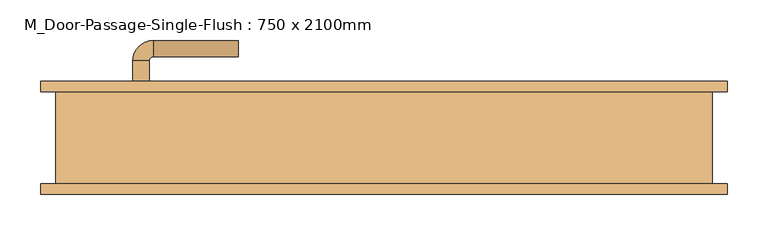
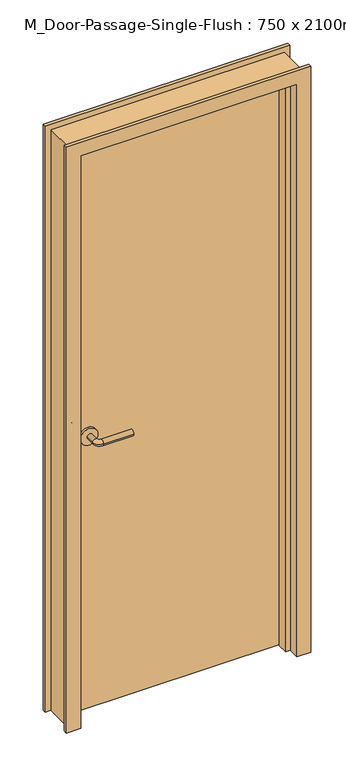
"""IFC4 building model written with IfcOpenShell, lengths in millimetres: door geometry, M_Door-Passage-Single-Flush : 750 x 2100mm."""

from ifc_helpers import new_model, si_unit, point, frame, frame_2d, origin, origin_with_axes, place, context, project, spatial, polyline, circle_curve, ellipse_curve, trimmed, segment, composite_curve, outline, extrude, faceted_brep, source, transform, mapped, element, save
from ifc_brep_helpers import plane_surface, cylinder_surface, revolved_surface, advanced_brep


def m_door_passage_single_flush_750_x_2100mm_117db9f4(model_context):
    return source(origin(), model_context, "Body", "SolidModel", [
        advanced_brep(
        [(-309.990625, 10.35, 1000.0), (-289.990625, 10.35, 1000.0), (-289.990625, -19.65, 1000.0), (-309.990625, -19.65, 1000.0), (-284.990625, -24.65, 1000.0), (-284.990625, -44.65, 1000.0), (-179.990625, -44.65, 1000.0), (-179.990625, -24.65, 1000.0)],
        [
            (0, 1, circle_curve(frame((-299.990625, 10.35, 1000.0), z_axis=(0.0, 1.0, 0.0), x_axis=(1.0, 0.0, 0.0)), 10.0)),
            (1, 0, circle_curve(frame((-299.990625, 10.35, 1000.0), z_axis=(0.0, 1.0, 0.0), x_axis=(1.0, 0.0, 0.0)), 10.0)),
            (1, 2),
            (2, 3, circle_curve(frame((-299.990625, -19.65, 1000.0), z_axis=(0.0, 1.0, 0.0), x_axis=(1.0, 0.0, 0.0)), 10.0)),
            (3, 0),
            (3, 2, circle_curve(frame((-299.990625, -19.65, 1000.0), z_axis=(0.0, 1.0, 0.0), x_axis=(1.0, 0.0, 0.0)), 10.0)),
            (4, 5, circle_curve(frame((-284.990625, -34.65, 1000.0), z_axis=(-1.0, 0.0, 0.0), x_axis=(0.0, 1.0, 0.0)), 10.0)),
            (5, 3, circle_curve(frame((-284.990625, -19.65, 1000.0), z_axis=(0.0, 0.0, -1.0), x_axis=(-1.0, 0.0, 0.0)), 25.0)),
            (2, 4, circle_curve(frame((-284.990625, -19.65, 1000.0), z_axis=(0.0, 0.0, 1.0), x_axis=(-1.0, 0.0, 0.0)), 5.0)),
            (5, 4, circle_curve(frame((-284.990625, -34.65, 1000.0), z_axis=(-1.0, 0.0, 0.0), x_axis=(0.0, 1.0, 0.0)), 10.0)),
            (6, 7, circle_curve(frame((-179.990625, -34.65, 1000.0), z_axis=(1.0, 0.0, 0.0), x_axis=(0.0, 1.0, 0.0)), 10.0)),
            (7, 6, circle_curve(frame((-179.990625, -34.65, 1000.0), z_axis=(1.0, 0.0, 0.0), x_axis=(0.0, 1.0, 0.0)), 10.0)),
            (4, 7),
            (6, 5),
        ],
        [
            plane_surface(frame((-299.990625, 10.35, 1000.0), z_axis=(0.0, 1.0, 0.0), x_axis=(0.0, 0.0, 1.0))),
            cylinder_surface(frame((-299.990625, 10.35, 1000.0), z_axis=(0.0, 1.0, 0.0), x_axis=(1.0, 0.0, 0.0)), 10.0),
            revolved_surface(trimmed(ellipse_curve(frame((-299.990625, -19.65, 1000.0), z_axis=(0.0, -1.0, 0.0), x_axis=(1.0, 0.0, 0.0)), 10.0, 10.0), [point((-309.990625, -19.65, 1000.0))], [point((-289.990625, -19.65, 1000.0))], True, "CARTESIAN"), (-284.990625, -19.65, 1000.0), (0.0, 0.0, -1.0)),
            revolved_surface(trimmed(ellipse_curve(frame((-299.990625, -19.65, 1000.0), z_axis=(0.0, -1.0, 0.0), x_axis=(1.0, 0.0, 0.0)), 10.0, 10.0), [point((-289.990625, -19.65, 1000.0))], [point((-309.990625, -19.65, 1000.0))], True, "CARTESIAN"), (-284.990625, -19.65, 1000.0), (0.0, 0.0, -1.0)),
            plane_surface(frame((-179.990625, -34.65, 1000.0), z_axis=(1.0, 0.0, 0.0), x_axis=(0.0, 0.0, 1.0))),
            cylinder_surface(frame((-284.990625, -34.65, 1000.0), z_axis=(-1.0, 0.0, 0.0), x_axis=(0.0, 1.0, 0.0)), 10.0),
        ],
        [
            (0, [[1, 2]]),
            (1, [[3, 4, 5, -2]]),
            (1, [[-5, 6, -3, -1]]),
            (2, [[7, 8, -4, 9]]),
            (3, [[10, -9, -6, -8]]),
            (4, [[11, 12]]),
            (5, [[13, -11, 14, -7]]),
            (5, [[-14, -12, -13, -10]]),
        ],
    ),
        extrude(outline(composite_curve([segment(trimmed(circle_curve(frame_2d((1000.0, -302.490625)), 30.0), [point((1000.0, -332.490625))], [point((1000.0, -272.490625))], False, "CARTESIAN"), True, "CONTINUOUS"), segment(trimmed(circle_curve(frame_2d((1000.0, -302.490625)), 30.0), [point((1000.0, -272.490625))], [point((1000.0, -332.490625))], False, "CARTESIAN"), True, "CONTINUOUS")], self_intersect=False)), frame((0.0, 10.35, 0.0), z_axis=(0.0, 1.0, 0.0), x_axis=(0.0, 0.0, 1.0)), (0.0, 0.0, 1.0), 8.0),
        advanced_brep(
        [(-309.990625, 71.35, 1000.0), (-289.990625, 71.35, 1000.0), (-309.990625, 101.35, 1000.0), (-289.990625, 101.35, 1000.0), (-284.990625, 106.35, 1000.0), (-284.990625, 126.35, 1000.0), (-179.990625, 126.35, 1000.0), (-179.990625, 106.35, 1000.0)],
        [
            (0, 1, circle_curve(frame((-299.990625, 71.35, 1000.0), z_axis=(0.0, -1.0, 0.0), x_axis=(1.0, 0.0, 0.0)), 10.0)),
            (1, 0, circle_curve(frame((-299.990625, 71.35, 1000.0), z_axis=(0.0, -1.0, 0.0), x_axis=(1.0, 0.0, 0.0)), 10.0)),
            (0, 2),
            (2, 3, circle_curve(frame((-299.990625, 101.35, 1000.0), z_axis=(0.0, -1.0, 0.0), x_axis=(1.0, 0.0, 0.0)), 10.0)),
            (3, 1),
            (3, 2, circle_curve(frame((-299.990625, 101.35, 1000.0), z_axis=(0.0, -1.0, 0.0), x_axis=(1.0, 0.0, 0.0)), 10.0)),
            (4, 3, circle_curve(frame((-284.990625, 101.35, 1000.0), z_axis=(0.0, 0.0, 1.0), x_axis=(-1.0, 0.0, 0.0)), 5.0)),
            (2, 5, circle_curve(frame((-284.990625, 101.35, 1000.0), z_axis=(0.0, 0.0, -1.0), x_axis=(-1.0, 0.0, 0.0)), 25.0)),
            (5, 4, circle_curve(frame((-284.990625, 116.35, 1000.0), z_axis=(-1.0, 0.0, 0.0), x_axis=(0.0, -1.0, 0.0)), 10.0)),
            (4, 5, circle_curve(frame((-284.990625, 116.35, 1000.0), z_axis=(-1.0, 0.0, 0.0), x_axis=(0.0, -1.0, 0.0)), 10.0)),
            (6, 7, circle_curve(frame((-179.990625, 116.35, 1000.0), z_axis=(1.0, 0.0, 0.0), x_axis=(0.0, -1.0, 0.0)), 10.0)),
            (7, 6, circle_curve(frame((-179.990625, 116.35, 1000.0), z_axis=(1.0, 0.0, 0.0), x_axis=(0.0, -1.0, 0.0)), 10.0)),
            (5, 6),
            (7, 4),
        ],
        [
            plane_surface(frame((-299.990625, 71.35, 1000.0), z_axis=(0.0, -1.0, 0.0), x_axis=(0.0, 0.0, 1.0))),
            cylinder_surface(frame((-299.990625, 71.35, 1000.0), z_axis=(0.0, -1.0, 0.0), x_axis=(1.0, 0.0, 0.0)), 10.0),
            revolved_surface(trimmed(ellipse_curve(frame((-299.990625, 101.35, 1000.0), z_axis=(0.0, -1.0, 0.0), x_axis=(1.0, 0.0, 0.0)), 10.0, 10.0), [point((-309.990625, 101.35, 1000.0))], [point((-289.990625, 101.35, 1000.0))], True, "CARTESIAN"), (-284.990625, 101.35, 1000.0), (0.0, 0.0, -1.0)),
            revolved_surface(trimmed(ellipse_curve(frame((-299.990625, 101.35, 1000.0), z_axis=(0.0, -1.0, 0.0), x_axis=(1.0, 0.0, 0.0)), 10.0, 10.0), [point((-289.990625, 101.35, 1000.0))], [point((-309.990625, 101.35, 1000.0))], True, "CARTESIAN"), (-284.990625, 101.35, 1000.0), (0.0, 0.0, -1.0)),
            plane_surface(frame((-179.990625, 116.35, 1000.0), z_axis=(1.0, 0.0, 0.0), x_axis=(0.0, 0.0, 1.0))),
            cylinder_surface(frame((-284.990625, 116.35, 1000.0), z_axis=(-1.0, 0.0, 0.0), x_axis=(0.0, -1.0, 0.0)), 10.0),
        ],
        [
            (0, [[1, 2]]),
            (1, [[-1, 3, 4, 5]]),
            (1, [[-2, -5, 6, -3]]),
            (2, [[7, -4, 8, 9]]),
            (3, [[-8, -6, -7, 10]]),
            (4, [[11, 12]]),
            (5, [[-9, 13, -12, 14]]),
            (5, [[-10, -14, -11, -13]]),
        ],
    ),
        extrude(outline(composite_curve([segment(trimmed(circle_curve(frame_2d((1000.0, -302.490625)), 30.0), [point((1000.0, -332.490625))], [point((1000.0, -272.490625))], False, "CARTESIAN"), True, "CONTINUOUS"), segment(trimmed(circle_curve(frame_2d((1000.0, -302.490625)), 30.0), [point((1000.0, -272.490625))], [point((1000.0, -332.490625))], False, "CARTESIAN"), True, "CONTINUOUS")], self_intersect=False)), frame((0.0, 63.35, 0.0), z_axis=(0.0, 1.0, 0.0), x_axis=(0.0, 0.0, 1.0)), (0.0, 0.0, 1.0), 8.0),
        extrude(outline(polyline([(375.0, 18.35), (-375.0, 18.35), (-375.0, 63.35), (375.0, 63.35), (375.0, 18.35)])), origin_with_axes(), (0.0, 0.0, 1.0), 2100.0),
        faceted_brep([(375.05, 76.05, 0.0), (424.05, 76.05, 0.0), (424.05, 63.35, 0.0), (405.0, 63.35, 0.0), (405.0, -50.65, 0.0), (424.05, -50.65, 0.0), (424.05, -63.35, 0.0), (375.05, -63.35, 0.0), (375.05, -24.5125, 0.0), (359.175, -24.5125, 0.0), (359.175, 13.5875, 0.0), (375.05, 13.5875, 0.0), (375.05, 76.05, 2100.05), (-375.05, 76.05, 2100.05), (-375.05, 76.05, 0.0), (-424.05, 76.05, 0.0), (-424.05, 76.05, 2149.05), (424.05, 76.05, 2149.05), (424.05, 63.35, 2149.05), (-424.05, 63.35, 2149.05), (-424.05, 63.35, 0.0), (-405.0, 63.35, 0.0), (-405.0, 63.35, 2130.0), (405.0, 63.35, 2130.0), (405.0, -50.65, 2130.0), (-405.0, -50.65, 2130.0), (-405.0, -50.65, 0.0), (-424.05, -50.65, 0.0), (-424.05, -50.65, 2149.05), (424.05, -50.65, 2149.05), (424.05, -63.35, 2149.05), (-424.05, -63.35, 2149.05), (-424.05, -63.35, 0.0), (-375.05, -63.35, 0.0), (-375.05, -63.35, 2100.05), (375.05, -63.35, 2100.05), (375.05, -24.5125, 2100.05), (-375.05, -24.5125, 2100.05), (-375.05, -24.5125, 0.0), (-359.175, -24.5125, 0.0), (-359.175, -24.5125, 2084.175), (359.175, -24.5125, 2084.175), (359.175, 13.5875, 2084.175), (-359.175, 13.5875, 2084.175), (-359.175, 13.5875, 0.0), (-375.05, 13.5875, 0.0), (-375.05, 13.5875, 2100.05), (375.05, 13.5875, 2100.05)], [[[0, 1, 2, 3, 4, 5, 6, 7, 8, 9, 10, 11]], [[1, 0, 12, 13, 14, 15, 16, 17]], [[2, 1, 17, 18]], [[3, 2, 18, 19, 20, 21, 22, 23]], [[4, 3, 23, 24]], [[5, 4, 24, 25, 26, 27, 28, 29]], [[6, 5, 29, 30]], [[7, 6, 30, 31, 32, 33, 34, 35]], [[8, 7, 35, 36]], [[9, 8, 36, 37, 38, 39, 40, 41]], [[10, 9, 41, 42]], [[11, 10, 42, 43, 44, 45, 46, 47]], [[0, 11, 47, 12]], [[18, 17, 16, 19]], [[24, 23, 22, 25]], [[30, 29, 28, 31]], [[36, 35, 34, 37]], [[42, 41, 40, 43]], [[12, 47, 46, 13]], [[14, 45, 44, 39, 38, 33, 32, 27, 26, 21, 20, 15]], [[19, 16, 15, 20]], [[25, 22, 21, 26]], [[31, 28, 27, 32]], [[37, 34, 33, 38]], [[43, 40, 39, 44]], [[13, 46, 45, 14]]]),
    ])


if __name__ == "__main__":
    model = new_model("IFC4")
    model_context = context("Model", 3, world=origin())
    ifc_project = project(units=[si_unit("LENGTHUNIT", "METRE", prefix="MILLI")], contexts=[model_context])
    site = spatial("IfcSite", under=ifc_project)
    building = spatial("IfcBuilding", under=site)
    placement = place(None, origin())
    m_door_passage_single_flush_750_x_2100mm_shape = m_door_passage_single_flush_750_x_2100mm_117db9f4(model_context)
    element("IfcDoor", 1, ObjectType="M_Door-Passage-Single-Flush : 750 x 2100mm", at=placement, inside=building, context=model_context, shape_type="MappedRepresentation", body=[
        mapped(m_door_passage_single_flush_750_x_2100mm_shape, transform((0.0, 0.0, 0.0), x_axis=(1.0, 0.0, 0.0), y_axis=(0.0, 1.0, 0.0), z_axis=(0.0, 0.0, 1.0))),
    ])
    save(model, "model.ifc")
